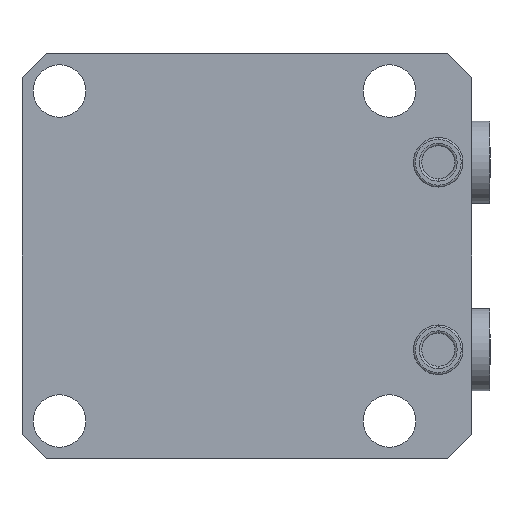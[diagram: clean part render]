
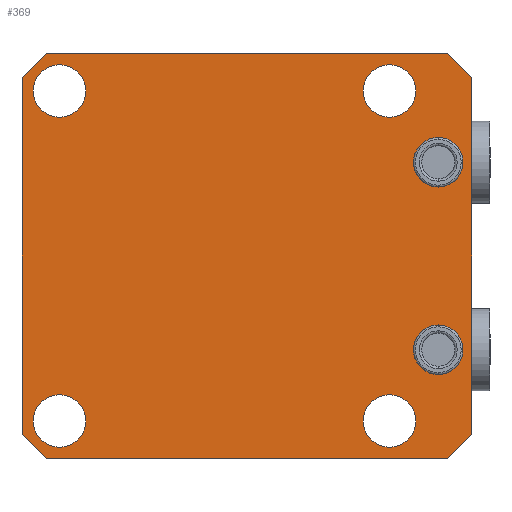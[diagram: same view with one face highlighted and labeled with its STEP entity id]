
A CAD part, front view. The second image highlights one B-rep face of the part: STEP entity #369.
In plain terms, the highlighted planar face has unit normal (0, -1, 0).
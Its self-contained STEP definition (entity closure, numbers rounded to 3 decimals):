
#232=PLANE('',#2699);
#293=FACE_BOUND('',#717,.T.);
#294=FACE_BOUND('',#718,.T.);
#295=FACE_BOUND('',#719,.T.);
#296=FACE_BOUND('',#720,.T.);
#297=FACE_BOUND('',#721,.T.);
#298=FACE_BOUND('',#722,.T.);
#299=FACE_BOUND('',#723,.T.);
#369=ADVANCED_FACE('',(#293,#294,#295,#296,#297,#298,#299),#232,.F.);
#717=EDGE_LOOP('',(#1124,#1125,#1126,#1127,#1128,#1129,#1130,#1131));
#718=EDGE_LOOP('',(#1132,#1133));
#719=EDGE_LOOP('',(#1134,#1135));
#720=EDGE_LOOP('',(#1136,#1137));
#721=EDGE_LOOP('',(#1138,#1139));
#722=EDGE_LOOP('',(#1140,#1141));
#723=EDGE_LOOP('',(#1142,#1143));
#897=CIRCLE('',#2654,6.6);
#913=CIRCLE('',#2675,6.6);
#914=CIRCLE('',#2677,7.);
#916=CIRCLE('',#2680,7.);
#918=CIRCLE('',#2683,7.);
#920=CIRCLE('',#2686,7.);
#924=CIRCLE('',#2693,7.);
#925=CIRCLE('',#2694,7.);
#926=CIRCLE('',#2695,7.);
#927=CIRCLE('',#2696,7.);
#928=CIRCLE('',#2697,6.6);
#929=CIRCLE('',#2698,6.6);
#1124=ORIENTED_EDGE('',*,*,#2047,.F.);
#1125=ORIENTED_EDGE('',*,*,#2048,.T.);
#1126=ORIENTED_EDGE('',*,*,#2049,.F.);
#1127=ORIENTED_EDGE('',*,*,#2050,.T.);
#1128=ORIENTED_EDGE('',*,*,#1970,.F.);
#1129=ORIENTED_EDGE('',*,*,#2051,.T.);
#1130=ORIENTED_EDGE('',*,*,#2052,.F.);
#1131=ORIENTED_EDGE('',*,*,#2053,.T.);
#1132=ORIENTED_EDGE('',*,*,#2027,.F.);
#1133=ORIENTED_EDGE('',*,*,#2054,.F.);
#1134=ORIENTED_EDGE('',*,*,#2023,.F.);
#1135=ORIENTED_EDGE('',*,*,#2055,.F.);
#1136=ORIENTED_EDGE('',*,*,#2019,.F.);
#1137=ORIENTED_EDGE('',*,*,#2056,.F.);
#1138=ORIENTED_EDGE('',*,*,#2015,.F.);
#1139=ORIENTED_EDGE('',*,*,#2057,.F.);
#1140=ORIENTED_EDGE('',*,*,#2058,.F.);
#1141=ORIENTED_EDGE('',*,*,#2013,.F.);
#1142=ORIENTED_EDGE('',*,*,#1993,.T.);
#1143=ORIENTED_EDGE('',*,*,#2059,.T.);
#1744=VERTEX_POINT('',#3742);
#1745=VERTEX_POINT('',#3744);
#1762=VERTEX_POINT('',#3789);
#1763=VERTEX_POINT('',#3791);
#1776=VERTEX_POINT('',#3828);
#1777=VERTEX_POINT('',#3830);
#1778=VERTEX_POINT('',#3834);
#1779=VERTEX_POINT('',#3835);
#1782=VERTEX_POINT('',#3843);
#1783=VERTEX_POINT('',#3844);
#1786=VERTEX_POINT('',#3852);
#1787=VERTEX_POINT('',#3853);
#1790=VERTEX_POINT('',#3861);
#1791=VERTEX_POINT('',#3862);
#1810=VERTEX_POINT('',#3941);
#1811=VERTEX_POINT('',#3942);
#1812=VERTEX_POINT('',#3944);
#1813=VERTEX_POINT('',#3946);
#1814=VERTEX_POINT('',#3949);
#1815=VERTEX_POINT('',#3951);
#1970=EDGE_CURVE('',#1744,#1745,#2315,.T.);
#1993=EDGE_CURVE('',#1763,#1762,#897,.T.);
#2013=EDGE_CURVE('',#1776,#1777,#913,.T.);
#2015=EDGE_CURVE('',#1778,#1779,#914,.T.);
#2019=EDGE_CURVE('',#1782,#1783,#916,.T.);
#2023=EDGE_CURVE('',#1786,#1787,#918,.T.);
#2027=EDGE_CURVE('',#1790,#1791,#920,.T.);
#2047=EDGE_CURVE('',#1810,#1811,#2339,.T.);
#2048=EDGE_CURVE('',#1810,#1812,#2340,.T.);
#2049=EDGE_CURVE('',#1813,#1812,#2341,.T.);
#2050=EDGE_CURVE('',#1813,#1745,#2342,.T.);
#2051=EDGE_CURVE('',#1744,#1814,#2343,.T.);
#2052=EDGE_CURVE('',#1815,#1814,#2344,.T.);
#2053=EDGE_CURVE('',#1815,#1811,#2345,.T.);
#2054=EDGE_CURVE('',#1791,#1790,#924,.T.);
#2055=EDGE_CURVE('',#1787,#1786,#925,.T.);
#2056=EDGE_CURVE('',#1783,#1782,#926,.T.);
#2057=EDGE_CURVE('',#1779,#1778,#927,.T.);
#2058=EDGE_CURVE('',#1777,#1776,#928,.T.);
#2059=EDGE_CURVE('',#1762,#1763,#929,.T.);
#2315=LINE('',#3743,#2467);
#2339=LINE('',#3940,#2491);
#2340=LINE('',#3943,#2492);
#2341=LINE('',#3945,#2493);
#2342=LINE('',#3947,#2494);
#2343=LINE('',#3948,#2495);
#2344=LINE('',#3950,#2496);
#2345=LINE('',#3952,#2497);
#2467=VECTOR('',#2964,1.);
#2491=VECTOR('',#3110,1.);
#2492=VECTOR('',#3111,1.);
#2493=VECTOR('',#3112,1.);
#2494=VECTOR('',#3113,1.);
#2495=VECTOR('',#3114,1.);
#2496=VECTOR('',#3115,1.);
#2497=VECTOR('',#3116,1.);
#2654=AXIS2_PLACEMENT_3D('',#3790,#3015,#3016);
#2675=AXIS2_PLACEMENT_3D('',#3829,#3061,#3062);
#2677=AXIS2_PLACEMENT_3D('',#3833,#3066,#3067);
#2680=AXIS2_PLACEMENT_3D('',#3842,#3074,#3075);
#2683=AXIS2_PLACEMENT_3D('',#3851,#3082,#3083);
#2686=AXIS2_PLACEMENT_3D('',#3860,#3090,#3091);
#2693=AXIS2_PLACEMENT_3D('',#3953,#3117,#3118);
#2694=AXIS2_PLACEMENT_3D('',#3954,#3119,#3120);
#2695=AXIS2_PLACEMENT_3D('',#3955,#3121,#3122);
#2696=AXIS2_PLACEMENT_3D('',#3956,#3123,#3124);
#2697=AXIS2_PLACEMENT_3D('',#3957,#3125,#3126);
#2698=AXIS2_PLACEMENT_3D('',#3958,#3127,#3128);
#2699=AXIS2_PLACEMENT_3D('',#3959,#3129,#3130);
#2964=DIRECTION('',(0.,0.,-1.));
#3015=DIRECTION('',(0.,1.,0.));
#3016=DIRECTION('',(0.,0.,1.));
#3061=DIRECTION('',(0.,-1.,0.));
#3062=DIRECTION('',(0.,0.,-1.));
#3066=DIRECTION('',(0.,-1.,0.));
#3067=DIRECTION('',(0.,0.,1.));
#3074=DIRECTION('',(0.,-1.,0.));
#3075=DIRECTION('',(0.,0.,1.));
#3082=DIRECTION('',(0.,-1.,0.));
#3083=DIRECTION('',(0.,0.,1.));
#3090=DIRECTION('',(0.,-1.,0.));
#3091=DIRECTION('',(0.,0.,1.));
#3110=DIRECTION('',(0.,0.,1.));
#3111=DIRECTION('',(0.707,0.,-0.707));
#3112=DIRECTION('',(-1.,0.,0.));
#3113=DIRECTION('',(0.707,0.,0.707));
#3114=DIRECTION('',(-0.707,0.,0.707));
#3115=DIRECTION('',(1.,0.,0.));
#3116=DIRECTION('',(-0.707,0.,-0.707));
#3117=DIRECTION('',(0.,-1.,0.));
#3118=DIRECTION('',(0.,0.,1.));
#3119=DIRECTION('',(0.,-1.,0.));
#3120=DIRECTION('',(0.,0.,1.));
#3121=DIRECTION('',(0.,-1.,0.));
#3122=DIRECTION('',(0.,0.,1.));
#3123=DIRECTION('',(0.,-1.,0.));
#3124=DIRECTION('',(0.,0.,1.));
#3125=DIRECTION('',(0.,-1.,0.));
#3126=DIRECTION('',(0.,0.,-1.));
#3127=DIRECTION('',(0.,1.,0.));
#3128=DIRECTION('',(0.,0.,1.));
#3129=DIRECTION('',(0.,1.,0.));
#3130=DIRECTION('',(0.,0.,1.));
#3742=CARTESIAN_POINT('',(66.,0.,47.5));
#3743=CARTESIAN_POINT('',(66.,0.,-54.));
#3744=CARTESIAN_POINT('',(66.,0.,-47.5));
#3789=CARTESIAN_POINT('',(57.,0.,31.6));
#3790=CARTESIAN_POINT('',(57.,0.,25.));
#3791=CARTESIAN_POINT('',(57.,0.,18.4));
#3828=CARTESIAN_POINT('',(57.,0.,-18.4));
#3829=CARTESIAN_POINT('',(57.,0.,-25.));
#3830=CARTESIAN_POINT('',(57.,0.,-31.6));
#3833=CARTESIAN_POINT('',(-44.,0.,44.));
#3834=CARTESIAN_POINT('',(-44.,0.,51.));
#3835=CARTESIAN_POINT('',(-44.,0.,37.));
#3842=CARTESIAN_POINT('',(44.,0.,44.));
#3843=CARTESIAN_POINT('',(44.,0.,51.));
#3844=CARTESIAN_POINT('',(44.,0.,37.));
#3851=CARTESIAN_POINT('',(-44.,0.,-44.));
#3852=CARTESIAN_POINT('',(-44.,0.,-37.));
#3853=CARTESIAN_POINT('',(-44.,0.,-51.));
#3860=CARTESIAN_POINT('',(44.,0.,-44.));
#3861=CARTESIAN_POINT('',(44.,0.,-37.));
#3862=CARTESIAN_POINT('',(44.,0.,-51.));
#3940=CARTESIAN_POINT('',(-54.,0.,-54.));
#3941=CARTESIAN_POINT('',(-54.,0.,-47.5));
#3942=CARTESIAN_POINT('',(-54.,0.,47.5));
#3943=CARTESIAN_POINT('',(-54.,0.,-47.5));
#3944=CARTESIAN_POINT('',(-47.5,0.,-54.));
#3945=CARTESIAN_POINT('',(-54.,0.,-54.));
#3946=CARTESIAN_POINT('',(59.5,0.,-54.));
#3947=CARTESIAN_POINT('',(59.5,0.,-54.));
#3948=CARTESIAN_POINT('',(66.,0.,47.5));
#3949=CARTESIAN_POINT('',(59.5,0.,54.));
#3950=CARTESIAN_POINT('',(-54.,0.,54.));
#3951=CARTESIAN_POINT('',(-47.5,0.,54.));
#3952=CARTESIAN_POINT('',(-47.5,0.,54.));
#3953=CARTESIAN_POINT('',(44.,0.,-44.));
#3954=CARTESIAN_POINT('',(-44.,0.,-44.));
#3955=CARTESIAN_POINT('',(44.,0.,44.));
#3956=CARTESIAN_POINT('',(-44.,0.,44.));
#3957=CARTESIAN_POINT('',(57.,0.,-25.));
#3958=CARTESIAN_POINT('',(57.,0.,25.));
#3959=CARTESIAN_POINT('',(-54.,0.,54.));
